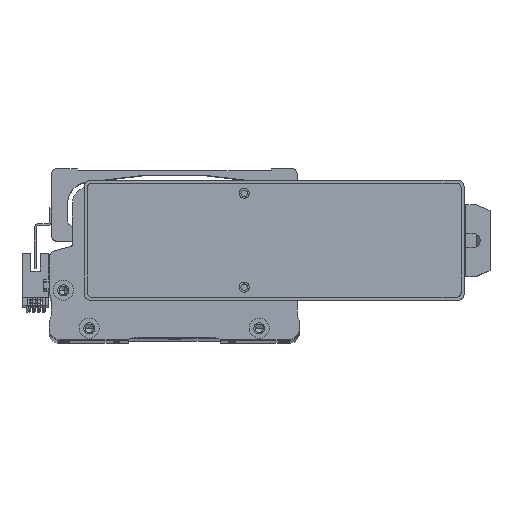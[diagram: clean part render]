
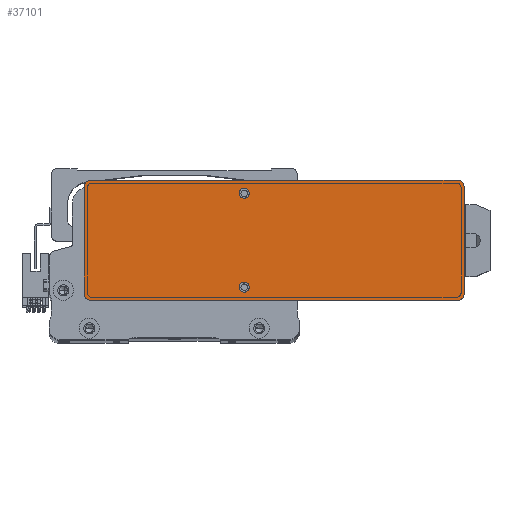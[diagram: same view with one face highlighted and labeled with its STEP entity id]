
A CAD part, top view. The second image highlights one B-rep face of the part: STEP entity #37101.
In plain terms, the highlighted planar face has unit normal (0, 0, 1) as drawn and (0, 0, -1) by its records, which use the part's own axes.
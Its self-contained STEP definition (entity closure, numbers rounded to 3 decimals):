
#2450 = CARTESIAN_POINT ( 'NONE',  ( 95., -30., 0. ) ) ;
#2828 = CARTESIAN_POINT ( 'NONE',  ( 92., -30., 0. ) ) ;
#3286 = VERTEX_POINT ( 'NONE', #27367 ) ;
#5727 = ORIENTED_EDGE ( 'NONE', *, *, #27260, .T. ) ;
#5925 = DIRECTION ( 'NONE',  ( 0., 0., -1. ) ) ;
#6799 = EDGE_CURVE ( 'NONE', #3286, #72586, #10528, .T. ) ;
#7190 = AXIS2_PLACEMENT_3D ( 'NONE', #38473, #26241, #69737 ) ;
#8415 = CARTESIAN_POINT ( 'NONE',  ( -92., 30., 0. ) ) ;
#8533 = ORIENTED_EDGE ( 'NONE', *, *, #17990, .F. ) ;
#8725 = DIRECTION ( 'NONE',  ( 1., 0., 0. ) ) ;
#10528 = CIRCLE ( 'NONE', #40140, 3. ) ;
#10785 = EDGE_LOOP ( 'NONE', ( #8533, #29890 ) ) ;
#10853 = ORIENTED_EDGE ( 'NONE', *, *, #46191, .F. ) ;
#12445 = CARTESIAN_POINT ( 'NONE',  ( -17.5, -23.5, 0. ) ) ;
#12687 = AXIS2_PLACEMENT_3D ( 'NONE', #58918, #21594, #65132 ) ;
#13255 = CARTESIAN_POINT ( 'NONE',  ( -15., 23.5, 0. ) ) ;
#13436 = VERTEX_POINT ( 'NONE', #8415 ) ;
#14017 = FACE_BOUND ( 'NONE', #34259, .T. ) ;
#16272 = VERTEX_POINT ( 'NONE', #32432 ) ;
#16376 = CARTESIAN_POINT ( 'NONE',  ( -92., -30., 0. ) ) ;
#17461 = ORIENTED_EDGE ( 'NONE', *, *, #71612, .T. ) ;
#17990 = EDGE_CURVE ( 'NONE', #22761, #21175, #20660, .T. ) ;
#19094 = ORIENTED_EDGE ( 'NONE', *, *, #61528, .F. ) ;
#19546 = DIRECTION ( 'NONE',  ( -1., 0., 0. ) ) ;
#19755 = AXIS2_PLACEMENT_3D ( 'NONE', #57774, #20449, #64029 ) ;
#20219 = CARTESIAN_POINT ( 'NONE',  ( 95., 30., 0. ) ) ;
#20449 = DIRECTION ( 'NONE',  ( 0., 0., -1. ) ) ;
#20660 = CIRCLE ( 'NONE', #34776, 2.5 ) ;
#21175 = VERTEX_POINT ( 'NONE', #43370 ) ;
#21594 = DIRECTION ( 'NONE',  ( 0., 0., -1. ) ) ;
#22761 = VERTEX_POINT ( 'NONE', #29221 ) ;
#22867 = EDGE_CURVE ( 'NONE', #21175, #22761, #24096, .T. ) ;
#23101 = DIRECTION ( 'NONE',  ( 0., 0., -1. ) ) ;
#23367 = LINE ( 'NONE', #20219, #54509 ) ;
#24096 = CIRCLE ( 'NONE', #74982, 2.5 ) ;
#24282 = DIRECTION ( 'NONE',  ( 0., 0., -1. ) ) ;
#24463 = VECTOR ( 'NONE', #69268, 1000. ) ;
#26241 = DIRECTION ( 'NONE',  ( 0., 0., 1. ) ) ;
#26434 = LINE ( 'NONE', #32039, #24463 ) ;
#27260 = EDGE_CURVE ( 'NONE', #68170, #16272, #39846, .T. ) ;
#27367 = CARTESIAN_POINT ( 'NONE',  ( 92., 30., 0. ) ) ;
#28647 = AXIS2_PLACEMENT_3D ( 'NONE', #73679, #36385, #79950 ) ;
#29164 = DIRECTION ( 'NONE',  ( 0., 0., -1. ) ) ;
#29221 = CARTESIAN_POINT ( 'NONE',  ( -17.5, 23.5, 0. ) ) ;
#29890 = ORIENTED_EDGE ( 'NONE', *, *, #22867, .F. ) ;
#30122 = VERTEX_POINT ( 'NONE', #43090 ) ;
#31492 = CARTESIAN_POINT ( 'NONE',  ( 95., 27., 0. ) ) ;
#32039 = CARTESIAN_POINT ( 'NONE',  ( 95., -30., 0. ) ) ;
#32432 = CARTESIAN_POINT ( 'NONE',  ( -95., -27., 0. ) ) ;
#32510 = CIRCLE ( 'NONE', #73539, 3. ) ;
#34259 = EDGE_LOOP ( 'NONE', ( #10853, #38064 ) ) ;
#34776 = AXIS2_PLACEMENT_3D ( 'NONE', #13255, #56845, #19546 ) ;
#36385 = DIRECTION ( 'NONE',  ( 0., 0., -1. ) ) ;
#37101 = ADVANCED_FACE ( 'NONE', ( #80348, #78395, #14017 ), #50669, .F. ) ;
#37150 = EDGE_CURVE ( 'NONE', #47094, #13436, #61795, .T. ) ;
#37924 = EDGE_LOOP ( 'NONE', ( #19094, #17461, #38746, #5727, #62128, #57819, #66460, #46014 ) ) ;
#38064 = ORIENTED_EDGE ( 'NONE', *, *, #44037, .F. ) ;
#38473 = CARTESIAN_POINT ( 'NONE',  ( 0., 0., 0. ) ) ;
#38746 = ORIENTED_EDGE ( 'NONE', *, *, #64550, .F. ) ;
#39846 = CIRCLE ( 'NONE', #12687, 3. ) ;
#40140 = AXIS2_PLACEMENT_3D ( 'NONE', #66393, #29164, #72703 ) ;
#41036 = DIRECTION ( 'NONE',  ( 0., -1., 0. ) ) ;
#43090 = CARTESIAN_POINT ( 'NONE',  ( 95., -27., 0. ) ) ;
#43320 = CARTESIAN_POINT ( 'NONE',  ( -15., -23.5, 0. ) ) ;
#43370 = CARTESIAN_POINT ( 'NONE',  ( -12.5, 23.5, 0. ) ) ;
#44037 = EDGE_CURVE ( 'NONE', #77542, #78436, #60322, .T. ) ;
#46014 = ORIENTED_EDGE ( 'NONE', *, *, #6799, .T. ) ;
#46191 = EDGE_CURVE ( 'NONE', #78436, #77542, #68690, .T. ) ;
#47094 = VERTEX_POINT ( 'NONE', #51974 ) ;
#48373 = EDGE_CURVE ( 'NONE', #3286, #13436, #23367, .T. ) ;
#49516 = DIRECTION ( 'NONE',  ( -1., 0., 0. ) ) ;
#50669 = PLANE ( 'NONE',  #7190 ) ;
#51974 = CARTESIAN_POINT ( 'NONE',  ( -95., 27., 0. ) ) ;
#54043 = EDGE_CURVE ( 'NONE', #47094, #16272, #58499, .T. ) ;
#54509 = VECTOR ( 'NONE', #70012, 1000. ) ;
#56242 = VECTOR ( 'NONE', #8725, 1000. ) ;
#56525 = VECTOR ( 'NONE', #41036, 1000. ) ;
#56845 = DIRECTION ( 'NONE',  ( 0., 0., -1. ) ) ;
#57774 = CARTESIAN_POINT ( 'NONE',  ( -92., 27., 0. ) ) ;
#57819 = ORIENTED_EDGE ( 'NONE', *, *, #37150, .T. ) ;
#58415 = VERTEX_POINT ( 'NONE', #2828 ) ;
#58499 = LINE ( 'NONE', #78353, #56525 ) ;
#58918 = CARTESIAN_POINT ( 'NONE',  ( -92., -27., 0. ) ) ;
#59747 = AXIS2_PLACEMENT_3D ( 'NONE', #43320, #5925, #49516 ) ;
#60322 = CIRCLE ( 'NONE', #59747, 2.5 ) ;
#60379 = CARTESIAN_POINT ( 'NONE',  ( 92., -27., 0. ) ) ;
#61528 = EDGE_CURVE ( 'NONE', #30122, #72586, #26434, .T. ) ;
#61576 = CARTESIAN_POINT ( 'NONE',  ( -15., 23.5, 0. ) ) ;
#61795 = CIRCLE ( 'NONE', #19755, 3. ) ;
#62128 = ORIENTED_EDGE ( 'NONE', *, *, #54043, .F. ) ;
#64029 = DIRECTION ( 'NONE',  ( 1., 0., 0. ) ) ;
#64550 = EDGE_CURVE ( 'NONE', #68170, #58415, #72848, .T. ) ;
#65132 = DIRECTION ( 'NONE',  ( 1., 0., 0. ) ) ;
#66393 = CARTESIAN_POINT ( 'NONE',  ( 92., 27., 0. ) ) ;
#66460 = ORIENTED_EDGE ( 'NONE', *, *, #48373, .F. ) ;
#66616 = DIRECTION ( 'NONE',  ( 1., 0., 0. ) ) ;
#67800 = DIRECTION ( 'NONE',  ( -1., 0., 0. ) ) ;
#68170 = VERTEX_POINT ( 'NONE', #16376 ) ;
#68690 = CIRCLE ( 'NONE', #28647, 2.5 ) ;
#69268 = DIRECTION ( 'NONE',  ( 0., 1., 0. ) ) ;
#69737 = DIRECTION ( 'NONE',  ( 1., 0., 0. ) ) ;
#70012 = DIRECTION ( 'NONE',  ( -1., 0., 0. ) ) ;
#71612 = EDGE_CURVE ( 'NONE', #30122, #58415, #32510, .T. ) ;
#72586 = VERTEX_POINT ( 'NONE', #31492 ) ;
#72703 = DIRECTION ( 'NONE',  ( 1., 0., 0. ) ) ;
#72848 = LINE ( 'NONE', #2450, #56242 ) ;
#73539 = AXIS2_PLACEMENT_3D ( 'NONE', #60379, #23101, #66616 ) ;
#73679 = CARTESIAN_POINT ( 'NONE',  ( -15., -23.5, 0. ) ) ;
#74982 = AXIS2_PLACEMENT_3D ( 'NONE', #61576, #24282, #67800 ) ;
#76628 = CARTESIAN_POINT ( 'NONE',  ( -12.5, -23.5, 0. ) ) ;
#77542 = VERTEX_POINT ( 'NONE', #76628 ) ;
#78353 = CARTESIAN_POINT ( 'NONE',  ( -95., -30., 0. ) ) ;
#78395 = FACE_OUTER_BOUND ( 'NONE', #37924, .T. ) ;
#78436 = VERTEX_POINT ( 'NONE', #12445 ) ;
#79950 = DIRECTION ( 'NONE',  ( -1., 0., 0. ) ) ;
#80348 = FACE_BOUND ( 'NONE', #10785, .T. ) ;
